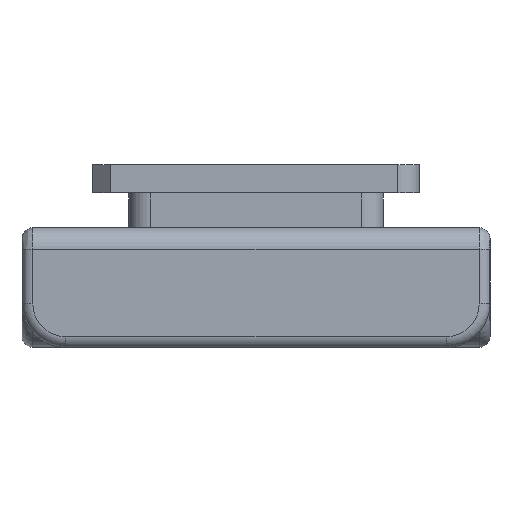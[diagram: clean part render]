
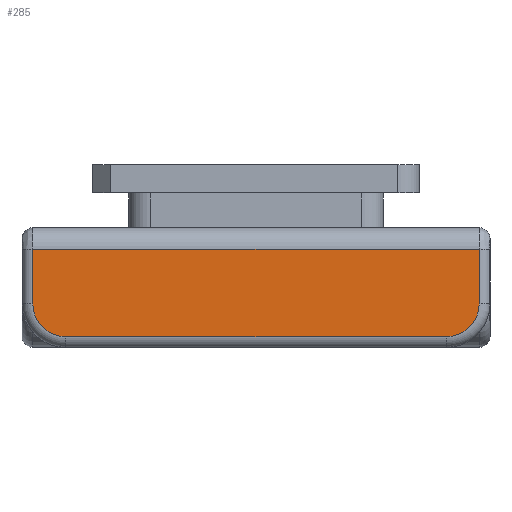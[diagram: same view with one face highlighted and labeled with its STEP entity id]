
A CAD part, left-side view. The second image highlights one B-rep face of the part: STEP entity #285.
In plain terms, the highlighted planar face has unit normal (-1, 0, 0).
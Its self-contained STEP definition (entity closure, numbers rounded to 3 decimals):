
#151=CIRCLE('',#3496,1.5);
#152=CIRCLE('',#3497,1.5);
#285=ADVANCED_FACE('',(#571),#438,.T.);
#438=PLANE('',#3498);
#571=FACE_OUTER_BOUND('',#748,.T.);
#748=EDGE_LOOP('',(#1427,#1428,#1429,#1430,#1431,#1432));
#1427=ORIENTED_EDGE('',*,*,#2435,.T.);
#1428=ORIENTED_EDGE('',*,*,#2436,.T.);
#1429=ORIENTED_EDGE('',*,*,#2437,.T.);
#1430=ORIENTED_EDGE('',*,*,#2438,.T.);
#1431=ORIENTED_EDGE('',*,*,#2439,.T.);
#1432=ORIENTED_EDGE('',*,*,#2440,.T.);
#2033=VERTEX_POINT('',#5176);
#2034=VERTEX_POINT('',#5177);
#2035=VERTEX_POINT('',#5179);
#2036=VERTEX_POINT('',#5181);
#2037=VERTEX_POINT('',#5183);
#2038=VERTEX_POINT('',#5185);
#2435=EDGE_CURVE('',#2033,#2034,#151,.T.);
#2436=EDGE_CURVE('',#2034,#2035,#2875,.T.);
#2437=EDGE_CURVE('',#2035,#2036,#2876,.T.);
#2438=EDGE_CURVE('',#2036,#2037,#2877,.T.);
#2439=EDGE_CURVE('',#2037,#2038,#152,.T.);
#2440=EDGE_CURVE('',#2038,#2033,#2878,.T.);
#2875=LINE('',#5178,#3273);
#2876=LINE('',#5180,#3274);
#2877=LINE('',#5182,#3275);
#2878=LINE('',#5186,#3276);
#3273=VECTOR('',#4176,1.);
#3274=VECTOR('',#4177,1.);
#3275=VECTOR('',#4178,1.);
#3276=VECTOR('',#4181,1.);
#3496=AXIS2_PLACEMENT_3D('',#5175,#4174,#4175);
#3497=AXIS2_PLACEMENT_3D('',#5184,#4179,#4180);
#3498=AXIS2_PLACEMENT_3D('',#5187,#4182,#4183);
#4174=DIRECTION('',(-1.,0.,0.));
#4175=DIRECTION('',(0.,0.,1.));
#4176=DIRECTION('',(0.,0.,1.));
#4177=DIRECTION('',(0.,1.,0.));
#4178=DIRECTION('',(0.,0.,-1.));
#4179=DIRECTION('',(-1.,0.,0.));
#4180=DIRECTION('',(0.,0.,1.));
#4181=DIRECTION('',(0.,-1.,0.));
#4182=DIRECTION('',(-1.,0.,0.));
#4183=DIRECTION('',(0.,0.,-1.));
#5175=CARTESIAN_POINT('',(67.915,201.501,-31.644));
#5176=CARTESIAN_POINT('',(67.915,201.501,-33.144));
#5177=CARTESIAN_POINT('',(67.915,200.001,-31.644));
#5178=CARTESIAN_POINT('',(67.915,200.001,-13.644));
#5179=CARTESIAN_POINT('',(67.915,200.001,-29.144));
#5180=CARTESIAN_POINT('',(67.915,221.001,-29.144));
#5181=CARTESIAN_POINT('',(67.915,220.501,-29.144));
#5182=CARTESIAN_POINT('',(67.915,220.501,-31.644));
#5183=CARTESIAN_POINT('',(67.915,220.501,-31.644));
#5184=CARTESIAN_POINT('',(67.915,219.001,-31.644));
#5185=CARTESIAN_POINT('',(67.915,219.001,-33.144));
#5186=CARTESIAN_POINT('',(67.915,166.751,-33.144));
#5187=CARTESIAN_POINT('',(67.915,166.751,-13.644));
